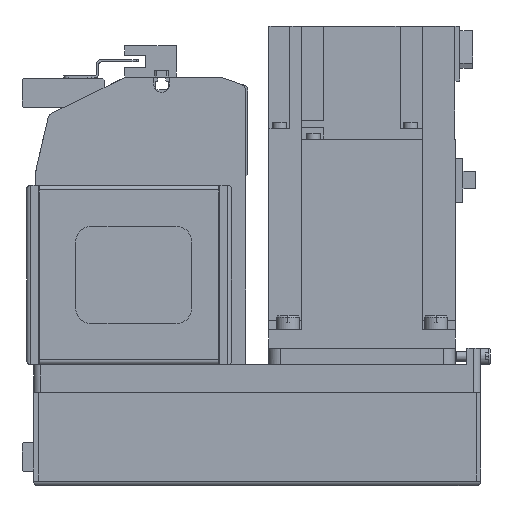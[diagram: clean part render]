
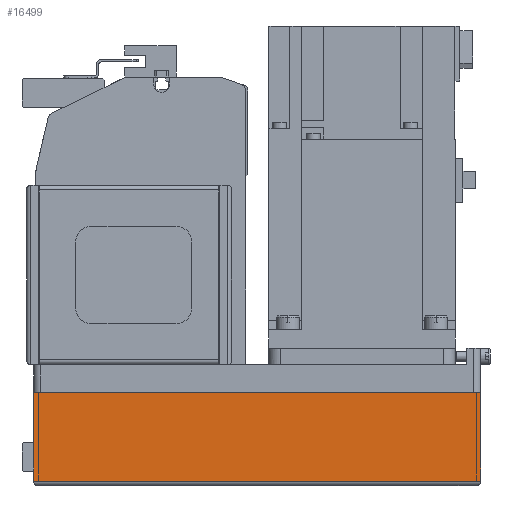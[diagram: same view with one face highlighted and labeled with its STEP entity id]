
A CAD part, left-side view. The second image highlights one B-rep face of the part: STEP entity #16499.
In plain terms, the highlighted planar face has unit normal (-1, 0, 0) as drawn and (0, 1, 0) by its records, which use the part's own axes.
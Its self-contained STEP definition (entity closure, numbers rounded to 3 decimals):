
#2616=ORIENTED_EDGE('',*,*,#6687,.F.);
#2617=ORIENTED_EDGE('',*,*,#6727,.F.);
#2618=ORIENTED_EDGE('',*,*,#6664,.T.);
#2619=ORIENTED_EDGE('',*,*,#6677,.T.);
#6664=EDGE_CURVE('',#8863,#8866,#10554,.T.);
#6677=EDGE_CURVE('',#8866,#8878,#10567,.T.);
#6687=EDGE_CURVE('',#8886,#8878,#10577,.T.);
#6727=EDGE_CURVE('',#8863,#8886,#10595,.T.);
#8863=VERTEX_POINT('',#25388);
#8866=VERTEX_POINT('',#25393);
#8878=VERTEX_POINT('',#25421);
#8886=VERTEX_POINT('',#25441);
#10554=LINE('',#25394,#12140);
#10567=LINE('',#25422,#12153);
#10577=LINE('',#25442,#12163);
#10595=LINE('',#25512,#12181);
#12140=VECTOR('',#20322,1000.);
#12153=VECTOR('',#20341,1000.);
#12163=VECTOR('',#20355,1000.);
#12181=VECTOR('',#20449,1000.);
#13583=EDGE_LOOP('',(#2616,#2617,#2618,#2619));
#14775=FACE_BOUND('',#13583,.T.);
#15800=PLANE('',#17694);
#16499=ADVANCED_FACE('',(#14775),#15800,.T.);
#17694=AXIS2_PLACEMENT_3D('',#25511,#20447,#20448);
#20322=DIRECTION('',(0.,0.,1.));
#20341=DIRECTION('',(1.,0.,0.));
#20355=DIRECTION('',(0.,0.,1.));
#20447=DIRECTION('',(0.,1.,0.));
#20448=DIRECTION('',(0.,0.,1.));
#20449=DIRECTION('',(1.,0.,0.));
#25388=CARTESIAN_POINT('',(-192.,40.,-50.));
#25393=CARTESIAN_POINT('',(-192.,40.,-12.1));
#25394=CARTESIAN_POINT('',(-192.,40.,-50.));
#25421=CARTESIAN_POINT('',(0.,40.,-12.1));
#25422=CARTESIAN_POINT('',(-192.,40.,-12.1));
#25441=CARTESIAN_POINT('',(0.,40.,-50.));
#25442=CARTESIAN_POINT('',(0.,40.,-50.));
#25511=CARTESIAN_POINT('',(-192.,40.,-50.));
#25512=CARTESIAN_POINT('',(-192.,40.,-50.));
